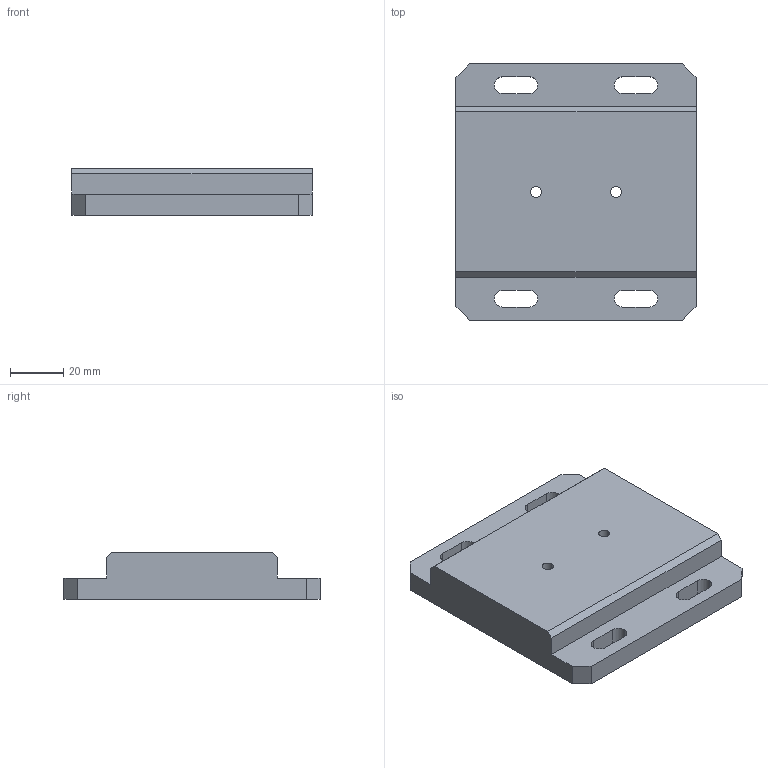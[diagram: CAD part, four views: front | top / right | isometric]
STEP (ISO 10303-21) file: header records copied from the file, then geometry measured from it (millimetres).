
FILE_DESCRIPTION (( 'STEP AP214' ), '1' );
FILE_NAME ('GZ26.01_V1气缸底座.STEP', '2021-03-30T08:20:29', ( '微软中国' ), ( 'Microsoft' ), 'SwSTEP 2.0', 'SolidWorks 2017', '' );
FILE_SCHEMA (( 'AUTOMOTIVE_DESIGN' ));
Length unit declared in the file: millimetre
Products named in the file (1): GZ26.01_V1气缸底座
Bounding box: 90 x 96 x 17.5 mm (x, y, z)
Volume: 119596.7 mm3; surface area: 23690.2 mm2
Topology: 1 solids, 1 shells, 40 faces, 114 edges, 76 vertices
Faces by surface type: plane 24, cylinder 16
Entity records: 1412 total; most frequent: CARTESIAN_POINT 231, ORIENTED_EDGE 228, DIRECTION 228, EDGE_CURVE 114, LINE 82, VECTOR 82, VERTEX_POINT 76, AXIS2_PLACEMENT_3D 73
